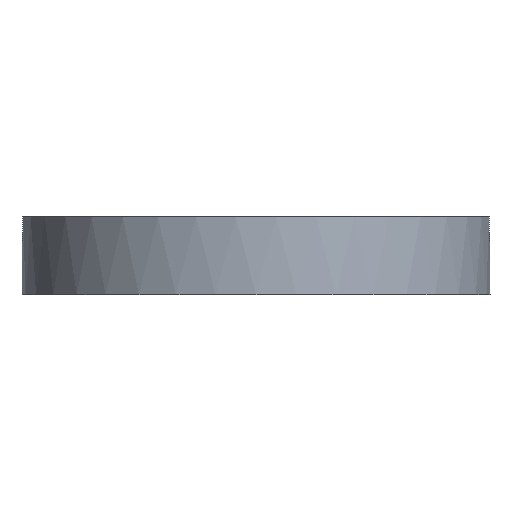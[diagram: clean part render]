
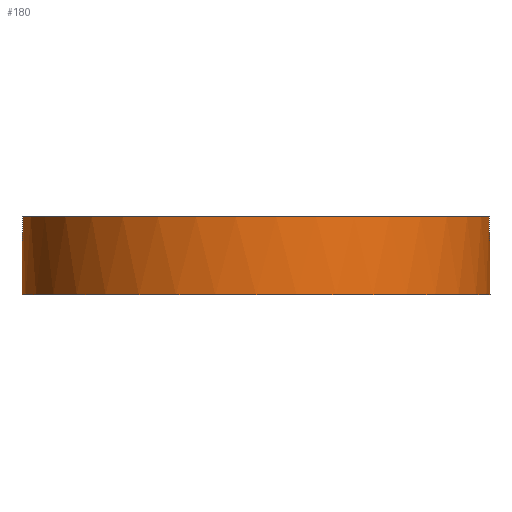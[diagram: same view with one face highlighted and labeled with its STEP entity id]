
A CAD part, left-side view. The second image highlights one B-rep face of the part: STEP entity #180.
In plain terms, the highlighted cylindrical face has radius 45 mm (diameter 90 mm), a partial arc.
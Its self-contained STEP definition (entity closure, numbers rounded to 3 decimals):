
#84 = VERTEX_POINT ( 'NONE', #659 ) ;
#134 = EDGE_CURVE ( 'NONE', #135, #152, #724, .T. ) ;
#135 = VERTEX_POINT ( 'NONE', #673 ) ;
#140 = VERTEX_POINT ( 'NONE', #710 ) ;
#152 = VERTEX_POINT ( 'NONE', #705 ) ;
#155 = EDGE_CURVE ( 'NONE', #84, #140, #752, .T. ) ;
#171 = EDGE_LOOP ( 'NONE', ( #177, #232, #193, #190, #194, #182, #195, #189 ) ) ;
#175 = EDGE_CURVE ( 'NONE', #1953, #152, #783, .T. ) ;
#177 = ORIENTED_EDGE ( 'NONE', *, *, #155, .T. ) ;
#180 = ADVANCED_FACE ( 'NONE', ( #827 ), #825, .T. ) ;
#182 = ORIENTED_EDGE ( 'NONE', *, *, #175, .F. ) ;
#184 = EDGE_CURVE ( 'NONE', #1974, #84, #809, .T. ) ;
#189 = ORIENTED_EDGE ( 'NONE', *, *, #184, .T. ) ;
#190 = ORIENTED_EDGE ( 'NONE', *, *, #196, .T. ) ;
#193 = ORIENTED_EDGE ( 'NONE', *, *, #1958, .F. ) ;
#194 = ORIENTED_EDGE ( 'NONE', *, *, #134, .T. ) ;
#195 = ORIENTED_EDGE ( 'NONE', *, *, #1999, .T. ) ;
#196 = EDGE_CURVE ( 'NONE', #512, #135, #802, .T. ) ;
#198 = EDGE_CURVE ( 'NONE', #140, #1945, #852, .T. ) ;
#232 = ORIENTED_EDGE ( 'NONE', *, *, #198, .T. ) ;
#512 = VERTEX_POINT ( 'NONE', #1328 ) ;
#659 = CARTESIAN_POINT ( 'NONE',  ( 38.971, -22.5, -6. ) ) ;
#673 = CARTESIAN_POINT ( 'NONE',  ( 36.303, 26.591, -6. ) ) ;
#703 = AXIS2_PLACEMENT_3D ( 'NONE', #753, #745, #744 ) ;
#705 = CARTESIAN_POINT ( 'NONE',  ( 38.971, 22.5, -6. ) ) ;
#710 = CARTESIAN_POINT ( 'NONE',  ( 36.303, -26.591, -6. ) ) ;
#718 = DIRECTION ( 'NONE',  ( 1., 0., 0. ) ) ;
#719 = DIRECTION ( 'NONE',  ( 0., 0., -1. ) ) ;
#720 = CARTESIAN_POINT ( 'NONE',  ( 0., 0., -6. ) ) ;
#721 = AXIS2_PLACEMENT_3D ( 'NONE', #720, #719, #718 ) ;
#724 = CIRCLE ( 'NONE', #721, 45. ) ;
#744 = DIRECTION ( 'NONE',  ( 1., 0., 0. ) ) ;
#745 = DIRECTION ( 'NONE',  ( 0., 0., -1. ) ) ;
#752 = CIRCLE ( 'NONE', #703, 45. ) ;
#753 = CARTESIAN_POINT ( 'NONE',  ( 0., 0., -6. ) ) ;
#773 = DIRECTION ( 'NONE',  ( 0., 0., 1. ) ) ;
#781 = VECTOR ( 'NONE', #773, 1000. ) ;
#782 = CARTESIAN_POINT ( 'NONE',  ( 38.971, 22.5, -7.5 ) ) ;
#783 = LINE ( 'NONE', #782, #781 ) ;
#801 = DIRECTION ( 'NONE',  ( 0., 0., -1. ) ) ;
#802 = LINE ( 'NONE', #805, #859 ) ;
#805 = CARTESIAN_POINT ( 'NONE',  ( 36.303, 26.591, -7.5 ) ) ;
#807 = DIRECTION ( 'NONE',  ( 0., 0., 1. ) ) ;
#808 = VECTOR ( 'NONE', #807, 1000. ) ;
#809 = LINE ( 'NONE', #817, #808 ) ;
#812 = DIRECTION ( 'NONE',  ( 1., 0., 0. ) ) ;
#816 = AXIS2_PLACEMENT_3D ( 'NONE', #820, #819, #812 ) ;
#817 = CARTESIAN_POINT ( 'NONE',  ( 38.971, -22.5, -7.5 ) ) ;
#819 = DIRECTION ( 'NONE',  ( 0., 0., 1. ) ) ;
#820 = CARTESIAN_POINT ( 'NONE',  ( 0., 0., -7.5 ) ) ;
#825 = CYLINDRICAL_SURFACE ( 'NONE', #816, 45. ) ;
#827 = FACE_OUTER_BOUND ( 'NONE', #171, .T. ) ;
#849 = DIRECTION ( 'NONE',  ( 0., 0., 1. ) ) ;
#850 = VECTOR ( 'NONE', #849, 1000. ) ;
#851 = CARTESIAN_POINT ( 'NONE',  ( 36.303, -26.591, -7.5 ) ) ;
#852 = LINE ( 'NONE', #851, #850 ) ;
#859 = VECTOR ( 'NONE', #801, 1000. ) ;
#1328 = CARTESIAN_POINT ( 'NONE',  ( 36.303, 26.591, 7.5 ) ) ;
#1539 = CARTESIAN_POINT ( 'NONE',  ( 36.303, -26.591, 7.5 ) ) ;
#1566 = DIRECTION ( 'NONE',  ( 1., 0., 0. ) ) ;
#1567 = DIRECTION ( 'NONE',  ( 0., 0., 1. ) ) ;
#1568 = CARTESIAN_POINT ( 'NONE',  ( 0., 0., 7.5 ) ) ;
#1569 = AXIS2_PLACEMENT_3D ( 'NONE', #1568, #1567, #1566 ) ;
#1576 = CIRCLE ( 'NONE', #1569, 45. ) ;
#1583 = CARTESIAN_POINT ( 'NONE',  ( 38.971, 22.5, -7.5 ) ) ;
#1597 = CARTESIAN_POINT ( 'NONE',  ( 0., 0., -7.5 ) ) ;
#1598 = AXIS2_PLACEMENT_3D ( 'NONE', #1597, #1658, #1657 ) ;
#1601 = CIRCLE ( 'NONE', #1598, 45. ) ;
#1625 = CARTESIAN_POINT ( 'NONE',  ( 38.971, -22.5, -7.5 ) ) ;
#1657 = DIRECTION ( 'NONE',  ( 1., 0., 0. ) ) ;
#1658 = DIRECTION ( 'NONE',  ( 0., 0., 1. ) ) ;
#1945 = VERTEX_POINT ( 'NONE', #1539 ) ;
#1953 = VERTEX_POINT ( 'NONE', #1583 ) ;
#1958 = EDGE_CURVE ( 'NONE', #512, #1945, #1576, .T. ) ;
#1974 = VERTEX_POINT ( 'NONE', #1625 ) ;
#1999 = EDGE_CURVE ( 'NONE', #1953, #1974, #1601, .T. ) ;
